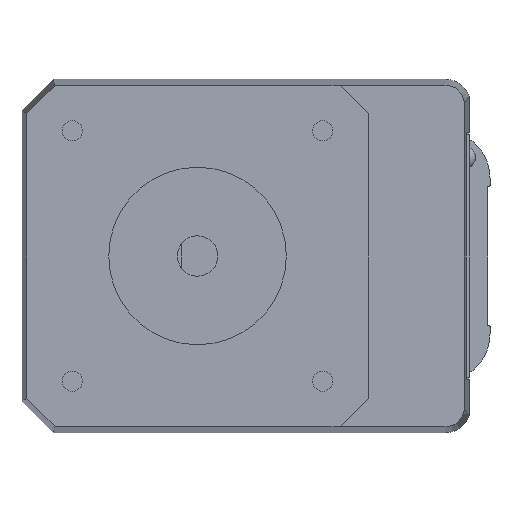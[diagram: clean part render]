
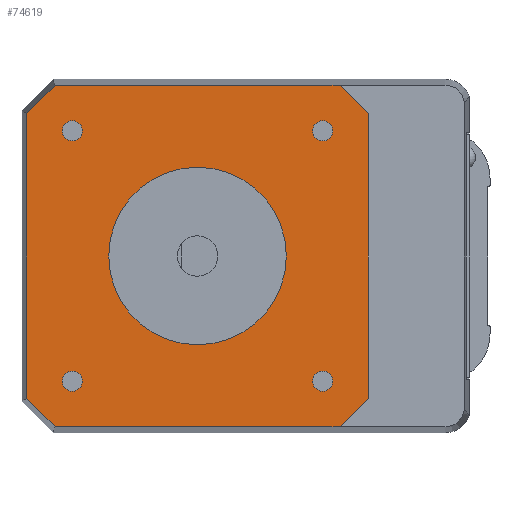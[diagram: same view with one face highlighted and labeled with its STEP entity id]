
A CAD part, front view. The second image highlights one B-rep face of the part: STEP entity #74619.
In plain terms, the highlighted planar face has unit normal (0, -1, 0).
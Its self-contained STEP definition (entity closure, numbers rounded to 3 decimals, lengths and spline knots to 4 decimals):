
#13664=DIRECTION('',(0.707,0.,0.707));
#13665=VECTOR('',#13664,0.1949);
#13666=CARTESIAN_POINT('',(0.1228,-1.1203,
0.4028));
#13667=LINE('',#13666,#13665);
#13668=DIRECTION('',(1.,0.,0.));
#13669=VECTOR('',#13668,1.3898);
#13670=CARTESIAN_POINT('',(0.2606,-1.1203,
0.5406));
#13671=LINE('',#13670,#13669);
#13672=DIRECTION('',(0.707,0.,-0.707));
#13673=VECTOR('',#13672,0.1949);
#13674=CARTESIAN_POINT('',(1.6503,-1.1203,
0.5406));
#13675=LINE('',#13674,#13673);
#13676=DIRECTION('',(0.,0.,-1.));
#13677=VECTOR('',#13676,1.3898);
#13678=CARTESIAN_POINT('',(1.7881,-1.1203,
0.4028));
#13679=LINE('',#13678,#13677);
#13680=DIRECTION('',(-0.707,0.,-0.707));
#13681=VECTOR('',#13680,0.1949);
#13682=CARTESIAN_POINT('',(1.7881,-1.1203,
-0.987));
#13683=LINE('',#13682,#13681);
#13684=DIRECTION('',(-1.,0.,0.));
#13685=VECTOR('',#13684,1.3898);
#13686=CARTESIAN_POINT('',(1.6503,-1.1203,
-1.1248));
#13687=LINE('',#13686,#13685);
#13688=DIRECTION('',(-0.707,0.,0.707));
#13689=VECTOR('',#13688,0.1949);
#13690=CARTESIAN_POINT('',(0.2606,-1.1203,
-1.1248));
#13691=LINE('',#13690,#13689);
#13692=DIRECTION('',(0.,0.,1.));
#13693=VECTOR('',#13692,1.3898);
#13694=CARTESIAN_POINT('',(0.1228,-1.1203,
-0.987));
#13695=LINE('',#13694,#13693);
#13696=CARTESIAN_POINT('',(0.9555,-1.1203,
-0.2921));
#13697=DIRECTION('',(0.,-1.,0.));
#13698=DIRECTION('',(0.,0.,1.));
#13699=AXIS2_PLACEMENT_3D('',#13696,#13697,#13698);
#13701=CARTESIAN_POINT('',(0.9555,-1.1203,
-0.2921));
#13702=DIRECTION('',(0.,-1.,0.));
#13703=DIRECTION('',(0.,0.,-1.));
#13704=AXIS2_PLACEMENT_3D('',#13701,#13702,#13703);
#13706=CARTESIAN_POINT('',(1.5657,-1.1203,
0.3182));
#13707=DIRECTION('',(0.,-1.,0.));
#13708=DIRECTION('',(0.,0.,-1.));
#13709=AXIS2_PLACEMENT_3D('',#13706,#13707,#13708);
#13711=CARTESIAN_POINT('',(1.5657,-1.1203,
0.3182));
#13712=DIRECTION('',(0.,-1.,0.));
#13713=DIRECTION('',(0.,0.,1.));
#13714=AXIS2_PLACEMENT_3D('',#13711,#13712,#13713);
#13716=CARTESIAN_POINT('',(0.3452,-1.1203,
0.3182));
#13717=DIRECTION('',(0.,-1.,0.));
#13718=DIRECTION('',(0.,0.,-1.));
#13719=AXIS2_PLACEMENT_3D('',#13716,#13717,#13718);
#13721=CARTESIAN_POINT('',(0.3452,-1.1203,
0.3182));
#13722=DIRECTION('',(0.,-1.,0.));
#13723=DIRECTION('',(0.,0.,1.));
#13724=AXIS2_PLACEMENT_3D('',#13721,#13722,#13723);
#13726=CARTESIAN_POINT('',(0.3452,-1.1203,
-0.9023));
#13727=DIRECTION('',(0.,-1.,0.));
#13728=DIRECTION('',(0.,0.,-1.));
#13729=AXIS2_PLACEMENT_3D('',#13726,#13727,#13728);
#13731=CARTESIAN_POINT('',(0.3452,-1.1203,
-0.9023));
#13732=DIRECTION('',(0.,-1.,0.));
#13733=DIRECTION('',(0.,0.,1.));
#13734=AXIS2_PLACEMENT_3D('',#13731,#13732,#13733);
#13736=CARTESIAN_POINT('',(1.5657,-1.1203,
-0.9023));
#13737=DIRECTION('',(0.,-1.,0.));
#13738=DIRECTION('',(0.,0.,-1.));
#13739=AXIS2_PLACEMENT_3D('',#13736,#13737,#13738);
#13741=CARTESIAN_POINT('',(1.5657,-1.1203,
-0.9023));
#13742=DIRECTION('',(0.,-1.,0.));
#13743=DIRECTION('',(0.,0.,1.));
#13744=AXIS2_PLACEMENT_3D('',#13741,#13742,#13743);
#49283=CARTESIAN_POINT('',(0.9555,-1.1203,
0.141));
#49284=VERTEX_POINT('',#49283);
#49285=CARTESIAN_POINT('',(0.9555,-1.1203,
-0.7252));
#49286=VERTEX_POINT('',#49285);
#49287=CARTESIAN_POINT('',(0.2606,-1.1203,
0.5406));
#49288=CARTESIAN_POINT('',(1.6503,-1.1203,
0.5406));
#49289=VERTEX_POINT('',#49287);
#49290=VERTEX_POINT('',#49288);
#49291=CARTESIAN_POINT('',(0.1228,-1.1203,
0.4028));
#49292=VERTEX_POINT('',#49291);
#49293=CARTESIAN_POINT('',(1.7881,-1.1203,
0.4028));
#49294=VERTEX_POINT('',#49293);
#49295=CARTESIAN_POINT('',(1.7881,-1.1203,
-0.987));
#49296=VERTEX_POINT('',#49295);
#49297=CARTESIAN_POINT('',(1.6503,-1.1203,
-1.1248));
#49298=VERTEX_POINT('',#49297);
#49299=CARTESIAN_POINT('',(0.2606,-1.1203,
-1.1248));
#49300=VERTEX_POINT('',#49299);
#49301=CARTESIAN_POINT('',(0.1228,-1.1203,
-0.987));
#49302=VERTEX_POINT('',#49301);
#49303=CARTESIAN_POINT('',(1.5657,-1.1203,
0.3674));
#49304=CARTESIAN_POINT('',(1.5657,-1.1203,
0.2689));
#49305=VERTEX_POINT('',#49303);
#49306=VERTEX_POINT('',#49304);
#49307=CARTESIAN_POINT('',(0.3452,-1.1203,
0.3674));
#49308=CARTESIAN_POINT('',(0.3452,-1.1203,
0.2689));
#49309=VERTEX_POINT('',#49307);
#49310=VERTEX_POINT('',#49308);
#49311=CARTESIAN_POINT('',(0.3452,-1.1203,
-0.8531));
#49312=CARTESIAN_POINT('',(0.3452,-1.1203,
-0.9515));
#49313=VERTEX_POINT('',#49311);
#49314=VERTEX_POINT('',#49312);
#49315=CARTESIAN_POINT('',(1.5657,-1.1203,
-0.8531));
#49316=CARTESIAN_POINT('',(1.5657,-1.1203,
-0.9515));
#49317=VERTEX_POINT('',#49315);
#49318=VERTEX_POINT('',#49316);
#74574=CARTESIAN_POINT('',(0.9555,-1.1203,
-1.8196));
#74575=DIRECTION('',(0.,-1.,0.));
#74576=DIRECTION('',(0.,0.,-1.));
#74577=AXIS2_PLACEMENT_3D('',#74574,#74575,#74576);
#74578=PLANE('',#74577);
#74579=ORIENTED_EDGE('',*,*,#74566,.T.);
#74580=ORIENTED_EDGE('',*,*,#74462,.T.);
#74581=ORIENTED_EDGE('',*,*,#74477,.T.);
#74582=ORIENTED_EDGE('',*,*,#74492,.T.);
#74583=ORIENTED_EDGE('',*,*,#74507,.T.);
#74584=ORIENTED_EDGE('',*,*,#74522,.T.);
#74585=ORIENTED_EDGE('',*,*,#74537,.T.);
#74586=ORIENTED_EDGE('',*,*,#74552,.T.);
#74587=EDGE_LOOP('',(#74579,#74580,#74581,#74582,#74583,#74584,#74585,#74586));
#74588=FACE_OUTER_BOUND('',#74587,.F.);
#74590=ORIENTED_EDGE('',*,*,#74589,.T.);
#74592=ORIENTED_EDGE('',*,*,#74591,.T.);
#74593=EDGE_LOOP('',(#74590,#74592));
#74594=FACE_BOUND('',#74593,.F.);
#74596=ORIENTED_EDGE('',*,*,#74595,.T.);
#74598=ORIENTED_EDGE('',*,*,#74597,.T.);
#74599=EDGE_LOOP('',(#74596,#74598));
#74600=FACE_BOUND('',#74599,.F.);
#74602=ORIENTED_EDGE('',*,*,#74601,.T.);
#74604=ORIENTED_EDGE('',*,*,#74603,.T.);
#74605=EDGE_LOOP('',(#74602,#74604));
#74606=FACE_BOUND('',#74605,.F.);
#74608=ORIENTED_EDGE('',*,*,#74607,.T.);
#74610=ORIENTED_EDGE('',*,*,#74609,.T.);
#74611=EDGE_LOOP('',(#74608,#74610));
#74612=FACE_BOUND('',#74611,.F.);
#74614=ORIENTED_EDGE('',*,*,#74613,.T.);
#74616=ORIENTED_EDGE('',*,*,#74615,.T.);
#74617=EDGE_LOOP('',(#74614,#74616));
#74618=FACE_BOUND('',#74617,.F.);
#74619=ADVANCED_FACE('',(#74588,#74594,#74600,#74606,#74612,#74618),#74578,.T.);
#13700=CIRCLE('',#13699,0.4331);
#13705=CIRCLE('',#13704,0.4331);
#13710=CIRCLE('',#13709,0.0492);
#13715=CIRCLE('',#13714,0.0492);
#13720=CIRCLE('',#13719,0.0492);
#13725=CIRCLE('',#13724,0.0492);
#13730=CIRCLE('',#13729,0.0492);
#13735=CIRCLE('',#13734,0.0492);
#13740=CIRCLE('',#13739,0.0492);
#13745=CIRCLE('',#13744,0.0492);
#74462=EDGE_CURVE('',#49289,#49290,#13671,.T.);
#74477=EDGE_CURVE('',#49290,#49294,#13675,.T.);
#74492=EDGE_CURVE('',#49294,#49296,#13679,.T.);
#74507=EDGE_CURVE('',#49296,#49298,#13683,.T.);
#74522=EDGE_CURVE('',#49298,#49300,#13687,.T.);
#74537=EDGE_CURVE('',#49300,#49302,#13691,.T.);
#74552=EDGE_CURVE('',#49302,#49292,#13695,.T.);
#74566=EDGE_CURVE('',#49292,#49289,#13667,.T.);
#74589=EDGE_CURVE('',#49284,#49286,#13700,.T.);
#74591=EDGE_CURVE('',#49286,#49284,#13705,.T.);
#74595=EDGE_CURVE('',#49306,#49305,#13710,.T.);
#74597=EDGE_CURVE('',#49305,#49306,#13715,.T.);
#74601=EDGE_CURVE('',#49310,#49309,#13720,.T.);
#74603=EDGE_CURVE('',#49309,#49310,#13725,.T.);
#74607=EDGE_CURVE('',#49314,#49313,#13730,.T.);
#74609=EDGE_CURVE('',#49313,#49314,#13735,.T.);
#74613=EDGE_CURVE('',#49318,#49317,#13740,.T.);
#74615=EDGE_CURVE('',#49317,#49318,#13745,.T.);
